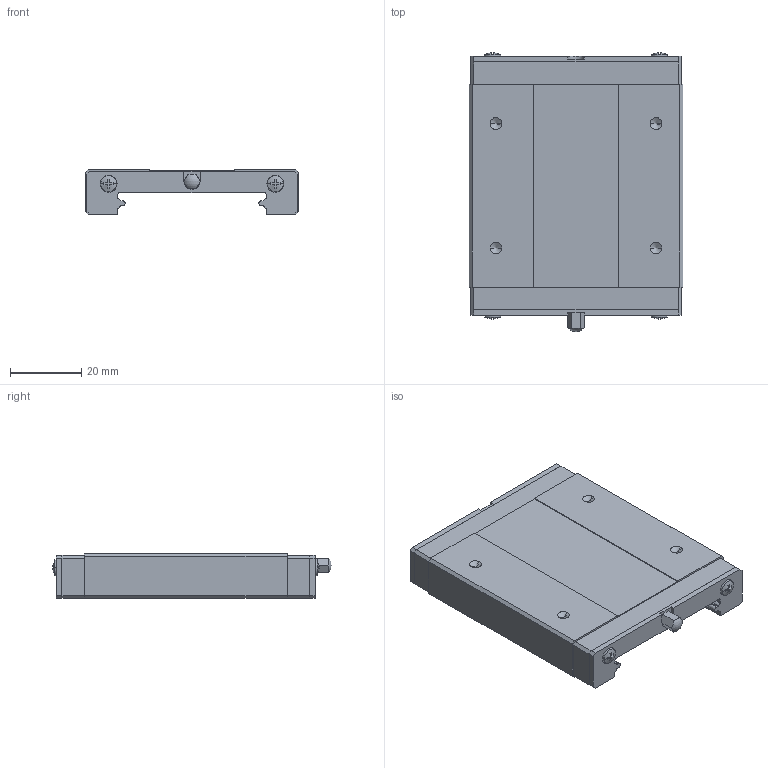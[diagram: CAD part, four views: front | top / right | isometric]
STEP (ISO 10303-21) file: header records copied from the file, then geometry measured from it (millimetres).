
FILE_DESCRIPTION(('no description'),'unknown implementation level');
FILE_NAME('MGW15H_ZF_H_M_SS_56.stp',' ',('HIWIN GmbH'),('CADClick - KiM GmbH - www.kimweb.de'),'unknown preprocess','ACIS','unknown authorization');
FILE_SCHEMA(('automotive_design'));
Length unit declared in the file: millimetre
Products named in the file (1): MGW15H ZF H M SS
Bounding box: 60 x 78.47 x 12.6 mm (x, y, z)
Volume: 35917.2 mm3; surface area: 12995.2 mm2
Topology: 1 solids, 4 shells, 223 faces, 602 edges, 392 vertices
Faces by surface type: plane 144, cylinder 50, cone 28, sphere 1
Entity records: 13585 total; most frequent: CARTESIAN_POINT 1322, STYLED_ITEM 1210, PRESENTATION_STYLE_ASSIGNMENT 1210, COLOUR_RGB 1210, ORIENTED_EDGE 1188, DIRECTION 1110, EDGE_CURVE 594, CURVE_STYLE 594
